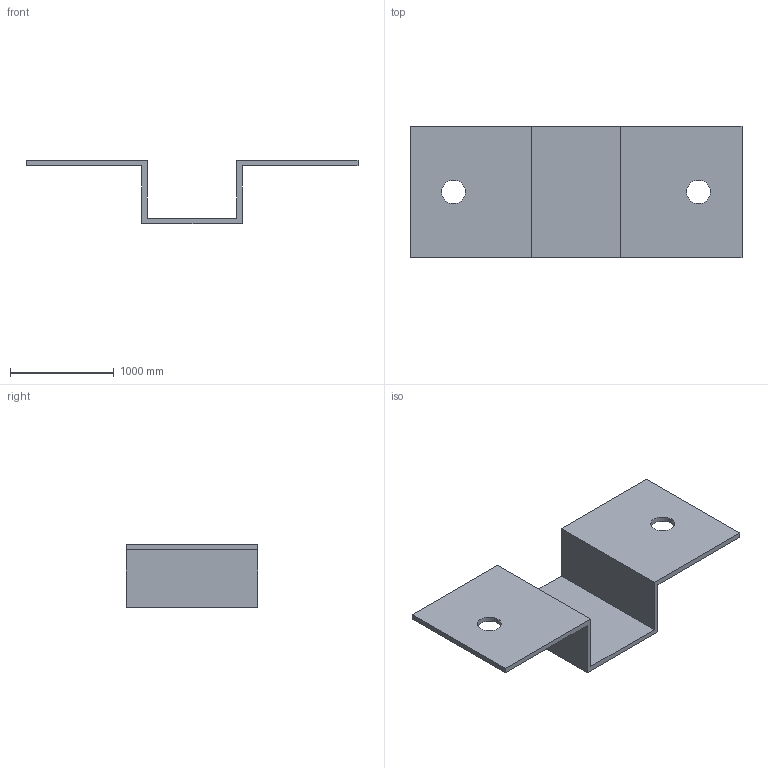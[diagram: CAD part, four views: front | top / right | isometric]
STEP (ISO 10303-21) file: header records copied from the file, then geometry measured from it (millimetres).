
FILE_DESCRIPTION(/* description */ (''),/* implementation_level */ '2;1');
FILE_NAME(/* name */ 'Dachreling_Halter_MAGMA_Serie_LM4678.step',/* time_stamp */ '2023-05-05T14:18:18+02:00',/* author */ (''),/* organization */ (''),/* preprocessor_version */ 'ST-DEVELOPER v19.2',/* originating_system */ 'Autodesk Translation Framework v12.4.0.73',/* authorisation */ '');
FILE_SCHEMA (('AUTOMOTIVE_DESIGN { 1 0 10303 214 3 1 1 }'));
Length unit declared in the file: millimetre
Products named in the file (1): _uchwyt bagaznikowy.7ee81bbc-7bed-4997-a3a1-4bef1051dc8b
Bounding box: 3200.4 x 1270 x 609.6 mm (x, y, z)
Volume: 274410088.1 mm3; surface area: 11444253.5 mm2
Topology: 1 solids, 1 shells, 16 faces, 42 edges, 28 vertices
Faces by surface type: plane 14, cylinder 2
Full cylindrical faces by diameter (mm): 228.6 x2
Entity records: 538 total; most frequent: CARTESIAN_POINT 87, ORIENTED_EDGE 84, DIRECTION 80, EDGE_CURVE 42, LINE 38, VECTOR 38, VERTEX_POINT 28, AXIS2_PLACEMENT_3D 21
